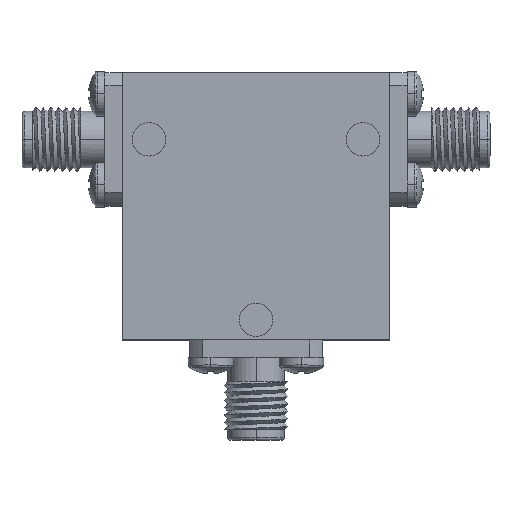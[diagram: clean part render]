
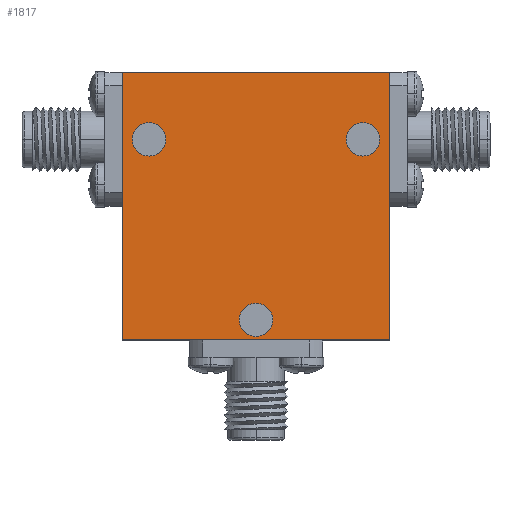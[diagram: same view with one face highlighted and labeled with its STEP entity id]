
A CAD part, top view. The second image highlights one B-rep face of the part: STEP entity #1817.
In plain terms, the highlighted planar face has unit normal (0, 0, 1).
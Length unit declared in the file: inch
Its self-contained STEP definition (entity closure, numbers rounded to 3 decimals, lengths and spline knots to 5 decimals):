
#40 = ORIENTED_EDGE ( 'NONE', *, *, #3236, .T. ) ;
#97 = ORIENTED_EDGE ( 'NONE', *, *, #3212, .F. ) ;
#104 = CARTESIAN_POINT ( 'NONE',  ( 0.5, -0.5, 0.25 ) ) ;
#136 = CARTESIAN_POINT ( 'NONE',  ( -0.5, -0.5, 0.25 ) ) ;
#276 = DIRECTION ( 'NONE',  ( 1., 0., 0. ) ) ;
#331 = CARTESIAN_POINT ( 'NONE',  ( -0.5, 0.5, 0.25 ) ) ;
#384 = CARTESIAN_POINT ( 'NONE',  ( 0.4625, 0.25, 0.25 ) ) ;
#405 = AXIS2_PLACEMENT_3D ( 'NONE', #2199, #2759, #446 ) ;
#436 = LINE ( 'NONE', #1288, #1767 ) ;
#446 = DIRECTION ( 'NONE',  ( 1., 0., 0. ) ) ;
#496 = EDGE_CURVE ( 'NONE', #1432, #1908, #2631, .T. ) ;
#588 = ORIENTED_EDGE ( 'NONE', *, *, #496, .F. ) ;
#617 = VERTEX_POINT ( 'NONE', #3396 ) ;
#644 = EDGE_CURVE ( 'NONE', #687, #1778, #2254, .T. ) ;
#687 = VERTEX_POINT ( 'NONE', #1706 ) ;
#750 = DIRECTION ( 'NONE',  ( 0., 0., 1. ) ) ;
#828 = ORIENTED_EDGE ( 'NONE', *, *, #1537, .T. ) ;
#847 = ORIENTED_EDGE ( 'NONE', *, *, #2303, .T. ) ;
#938 = CARTESIAN_POINT ( 'NONE',  ( 0., 0., 0.25 ) ) ;
#941 = LINE ( 'NONE', #331, #3647 ) ;
#949 = FACE_OUTER_BOUND ( 'NONE', #2238, .T. ) ;
#1029 = CARTESIAN_POINT ( 'NONE',  ( 0.5, 0.5, 0.25 ) ) ;
#1114 = EDGE_CURVE ( 'NONE', #2855, #2993, #1957, .T. ) ;
#1220 = PLANE ( 'NONE',  #2528 ) ;
#1221 = DIRECTION ( 'NONE',  ( 0., -1., 0. ) ) ;
#1226 = CARTESIAN_POINT ( 'NONE',  ( 0.5, 0.5, 0.25 ) ) ;
#1255 = EDGE_CURVE ( 'NONE', #3391, #1571, #2917, .T. ) ;
#1288 = CARTESIAN_POINT ( 'NONE',  ( -0.5, 0.5, 0.25 ) ) ;
#1314 = DIRECTION ( 'NONE',  ( -1., 0., 0. ) ) ;
#1398 = ORIENTED_EDGE ( 'NONE', *, *, #1255, .T. ) ;
#1416 = CARTESIAN_POINT ( 'NONE',  ( -0.4625, 0.25, 0.25 ) ) ;
#1432 = VERTEX_POINT ( 'NONE', #3583 ) ;
#1440 = CARTESIAN_POINT ( 'NONE',  ( 0., -0.425, 0.25 ) ) ;
#1482 = EDGE_LOOP ( 'NONE', ( #97, #3523 ) ) ;
#1537 = EDGE_CURVE ( 'NONE', #2940, #3391, #2963, .T. ) ;
#1552 = CARTESIAN_POINT ( 'NONE',  ( -0.5, -0.5, 0.25 ) ) ;
#1571 = VERTEX_POINT ( 'NONE', #1029 ) ;
#1662 = DIRECTION ( 'NONE',  ( 0., 0., 1. ) ) ;
#1706 = CARTESIAN_POINT ( 'NONE',  ( -0.0625, -0.425, 0.25 ) ) ;
#1729 = FACE_BOUND ( 'NONE', #1482, .T. ) ;
#1744 = EDGE_CURVE ( 'NONE', #2993, #2855, #3474, .T. ) ;
#1745 = DIRECTION ( 'NONE',  ( 0., 0., 1. ) ) ;
#1767 = VECTOR ( 'NONE', #1314, 39.37008 ) ;
#1778 = VERTEX_POINT ( 'NONE', #3209 ) ;
#1817 = ADVANCED_FACE ( 'NONE', ( #3284, #1729, #2873, #949 ), #1220, .T. ) ;
#1869 = DIRECTION ( 'NONE',  ( 0., 0., 1. ) ) ;
#1877 = AXIS2_PLACEMENT_3D ( 'NONE', #3630, #1869, #2702 ) ;
#1908 = VERTEX_POINT ( 'NONE', #384 ) ;
#1957 = CIRCLE ( 'NONE', #2806, 0.0625 ) ;
#2146 = EDGE_LOOP ( 'NONE', ( #2882, #3419 ) ) ;
#2151 = AXIS2_PLACEMENT_3D ( 'NONE', #1440, #3568, #3492 ) ;
#2154 = DIRECTION ( 'NONE',  ( 1., 0., 0. ) ) ;
#2199 = CARTESIAN_POINT ( 'NONE',  ( 0.4, 0.25, 0.25 ) ) ;
#2216 = AXIS2_PLACEMENT_3D ( 'NONE', #3381, #750, #3462 ) ;
#2238 = EDGE_LOOP ( 'NONE', ( #1398, #847, #40, #828 ) ) ;
#2254 = CIRCLE ( 'NONE', #2216, 0.0625 ) ;
#2303 = EDGE_CURVE ( 'NONE', #1571, #617, #436, .T. ) ;
#2342 = DIRECTION ( 'NONE',  ( 0., 1., 0. ) ) ;
#2399 = CIRCLE ( 'NONE', #1877, 0.0625 ) ;
#2404 = CIRCLE ( 'NONE', #2151, 0.0625 ) ;
#2528 = AXIS2_PLACEMENT_3D ( 'NONE', #938, #3548, #3533 ) ;
#2631 = CIRCLE ( 'NONE', #405, 0.0625 ) ;
#2674 = CARTESIAN_POINT ( 'NONE',  ( -0.3375, 0.25, 0.25 ) ) ;
#2702 = DIRECTION ( 'NONE',  ( 1., 0., 0. ) ) ;
#2755 = AXIS2_PLACEMENT_3D ( 'NONE', #2886, #1745, #276 ) ;
#2759 = DIRECTION ( 'NONE',  ( 0., 0., 1. ) ) ;
#2772 = VECTOR ( 'NONE', #2154, 39.37008 ) ;
#2806 = AXIS2_PLACEMENT_3D ( 'NONE', #3021, #1662, #3754 ) ;
#2853 = EDGE_LOOP ( 'NONE', ( #3023, #588 ) ) ;
#2855 = VERTEX_POINT ( 'NONE', #2674 ) ;
#2873 = FACE_BOUND ( 'NONE', #2146, .T. ) ;
#2882 = ORIENTED_EDGE ( 'NONE', *, *, #1114, .F. ) ;
#2886 = CARTESIAN_POINT ( 'NONE',  ( -0.4, 0.25, 0.25 ) ) ;
#2917 = LINE ( 'NONE', #1226, #3008 ) ;
#2940 = VERTEX_POINT ( 'NONE', #136 ) ;
#2963 = LINE ( 'NONE', #1552, #2772 ) ;
#2993 = VERTEX_POINT ( 'NONE', #1416 ) ;
#3008 = VECTOR ( 'NONE', #2342, 39.37008 ) ;
#3021 = CARTESIAN_POINT ( 'NONE',  ( -0.4, 0.25, 0.25 ) ) ;
#3023 = ORIENTED_EDGE ( 'NONE', *, *, #3364, .F. ) ;
#3209 = CARTESIAN_POINT ( 'NONE',  ( 0.0625, -0.425, 0.25 ) ) ;
#3212 = EDGE_CURVE ( 'NONE', #1778, #687, #2404, .T. ) ;
#3236 = EDGE_CURVE ( 'NONE', #617, #2940, #941, .T. ) ;
#3284 = FACE_BOUND ( 'NONE', #2853, .T. ) ;
#3364 = EDGE_CURVE ( 'NONE', #1908, #1432, #2399, .T. ) ;
#3381 = CARTESIAN_POINT ( 'NONE',  ( 0., -0.425, 0.25 ) ) ;
#3391 = VERTEX_POINT ( 'NONE', #104 ) ;
#3396 = CARTESIAN_POINT ( 'NONE',  ( -0.5, 0.5, 0.25 ) ) ;
#3419 = ORIENTED_EDGE ( 'NONE', *, *, #1744, .F. ) ;
#3462 = DIRECTION ( 'NONE',  ( 1., 0., 0. ) ) ;
#3474 = CIRCLE ( 'NONE', #2755, 0.0625 ) ;
#3492 = DIRECTION ( 'NONE',  ( 1., 0., 0. ) ) ;
#3523 = ORIENTED_EDGE ( 'NONE', *, *, #644, .F. ) ;
#3533 = DIRECTION ( 'NONE',  ( 1., 0., 0. ) ) ;
#3548 = DIRECTION ( 'NONE',  ( 0., 0., 1. ) ) ;
#3568 = DIRECTION ( 'NONE',  ( 0., 0., 1. ) ) ;
#3583 = CARTESIAN_POINT ( 'NONE',  ( 0.3375, 0.25, 0.25 ) ) ;
#3630 = CARTESIAN_POINT ( 'NONE',  ( 0.4, 0.25, 0.25 ) ) ;
#3647 = VECTOR ( 'NONE', #1221, 39.37008 ) ;
#3754 = DIRECTION ( 'NONE',  ( 1., 0., 0. ) ) ;
